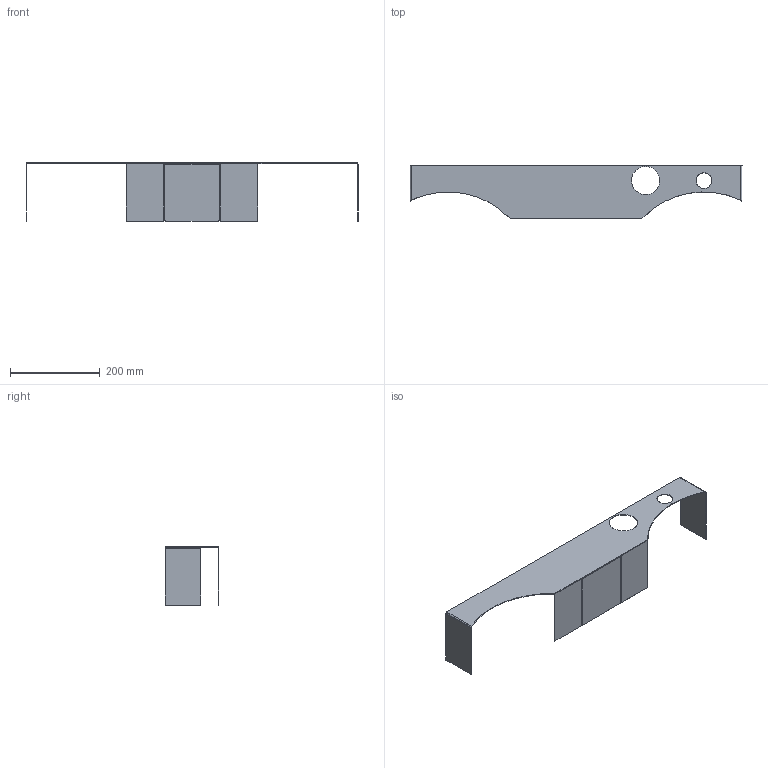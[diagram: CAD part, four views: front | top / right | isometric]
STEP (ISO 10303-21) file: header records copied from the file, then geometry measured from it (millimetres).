
FILE_DESCRIPTION(/* description */ (''),/* implementation_level */ '2;1');
FILE_NAME(/* name */ 'ITMBWDX',/* time_stamp */ '2024-12-16T08:43:45+01:00',/* author */ (''),/* organization */ (''),/* preprocessor_version */ 'ST-DEVELOPER v16.5',/* originating_system */ 'Rhino 7.27',/* authorisation */ '');
FILE_SCHEMA (('CONFIG_CONTROL_DESIGN'));
Length unit declared in the file: millimetre
Products named in the file (1): Document
Bounding box: 739.78 x 120 x 130 mm (x, y, z)
Volume: 55374.9 mm3; surface area: 245304.1 mm2
Topology: 3 solids, 4 shells, 34 faces, 90 edges, 63 vertices
Faces by surface type: plane 26, cylinder 8
Full cylindrical faces by diameter (mm): 35 x1, 63 x1
Entity records: 1056 total; most frequent: CARTESIAN_POINT 380, ORIENTED_EDGE 148, EDGE_CURVE 88, VERTEX_POINT 60, B_SPLINE_CURVE_WITH_KNOTS 59, DIRECTION 42, EDGE_LOOP 38, AXIS2_PLACEMENT_3D 38
